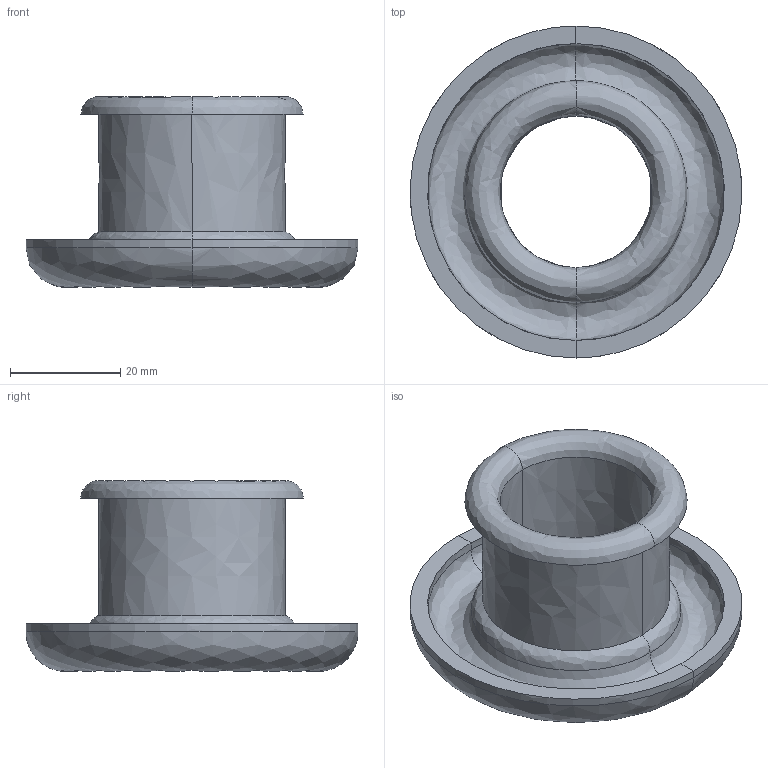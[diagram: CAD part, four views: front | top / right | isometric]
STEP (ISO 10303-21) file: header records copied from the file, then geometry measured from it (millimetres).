
FILE_DESCRIPTION (( 'STEP AP214' ), '1' );
FILE_NAME ('HP-100WJ-13.STEP', '2020-07-04T07:57:34', ( '' ), ( '' ), 'SwSTEP 2.0', 'SolidWorks 2010', '' );
FILE_SCHEMA (( 'AUTOMOTIVE_DESIGN' ));
Length unit declared in the file: millimetre
Products named in the file (1): HP-100WJ-13
Bounding box: 60.34 x 60.34 x 34.66 mm (x, y, z)
Volume: 18537.8 mm3; surface area: 12536.7 mm2
Topology: 1 solids, 1 shells, 22 faces, 44 edges, 22 vertices
Faces by surface type: bspline 22
Entity records: 5168 total; most frequent: CARTESIAN_POINT 4841, ORIENTED_EDGE 88, EDGE_CURVE 44, B_SPLINE_CURVE_WITH_KNOTS 44, VERTEX_POINT 22, ADVANCED_FACE 22, EDGE_LOOP 22, B_SPLINE_SURFACE_WITH_KNOTS 22
